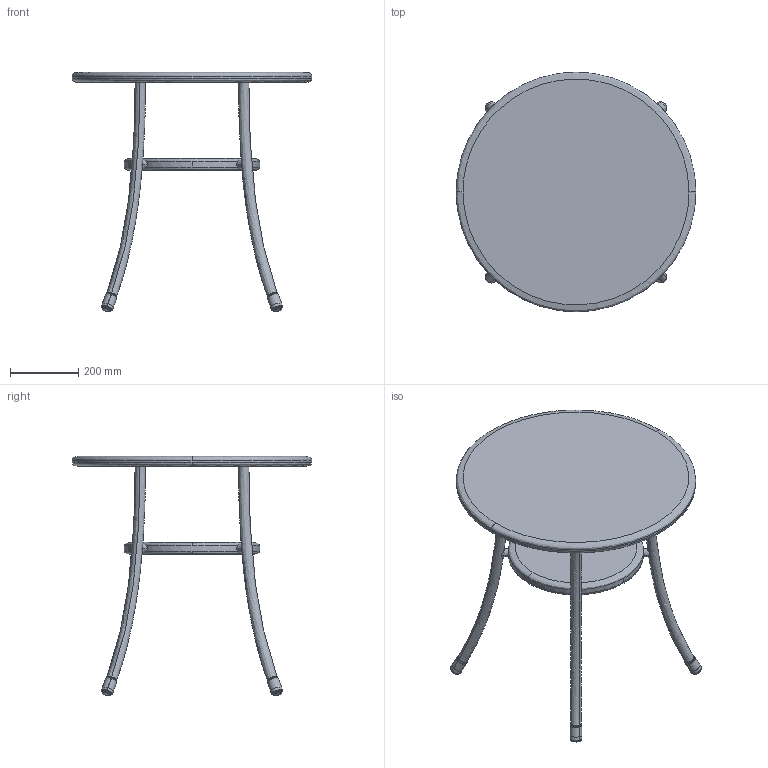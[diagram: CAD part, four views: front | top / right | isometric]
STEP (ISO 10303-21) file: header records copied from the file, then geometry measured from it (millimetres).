
FILE_DESCRIPTION(/* description */ (''),/* implementation_level */ '2;1');
FILE_NAME(/* name */ 'KINOSH~1',/* time_stamp */ '2019-07-19T09:50:34+09:00',/* author */ (''),/* organization */ (''),/* preprocessor_version */ 'ST-DEVELOPER v15',/* originating_system */ '',/* authorisation */ '');
FILE_SCHEMA (('AUTOMOTIVE_DESIGN'));
Length unit declared in the file: millimetre
Products named in the file (1): Document
Bounding box: 700 x 700 x 700 mm (x, y, z)
Volume: 17582964.5 mm3; surface area: 1394437.9 mm2
Topology: 14 solids, 14 shells, 156 faces, 304 edges, 184 vertices
Faces by surface type: bspline 128, plane 28
Entity records: 12450 total; most frequent: CARTESIAN_POINT 10622, ORIENTED_EDGE 608, EDGE_CURVE 304, VERTEX_POINT 184, EDGE_LOOP 164, ADVANCED_FACE 156, FACE_OUTER_BOUND 156, B_SPLINE_CURVE_WITH_KNOTS 100
